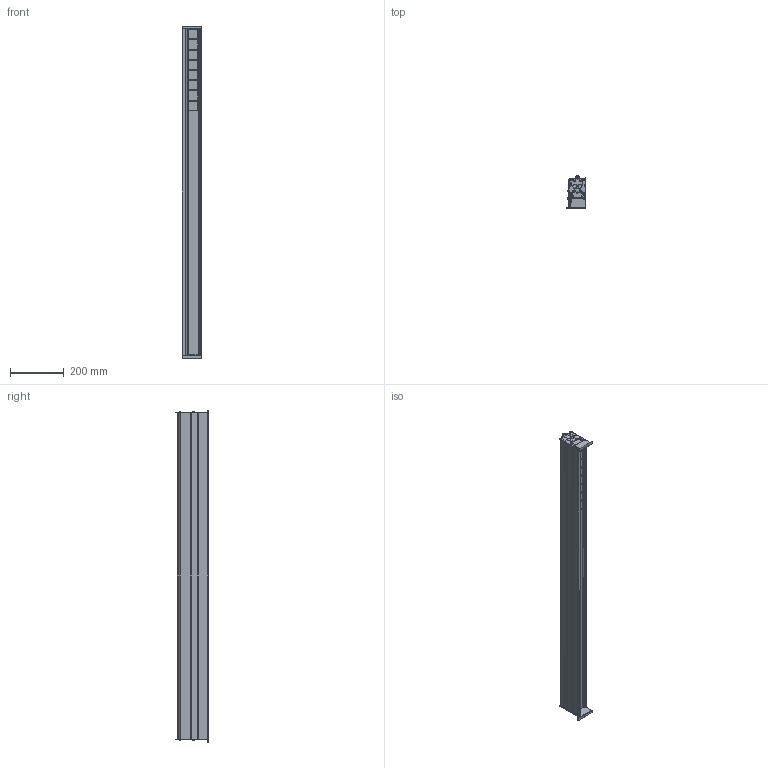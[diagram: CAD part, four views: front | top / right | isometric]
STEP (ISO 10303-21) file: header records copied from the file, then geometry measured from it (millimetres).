
FILE_DESCRIPTION (( 'STEP AP214' ), '1' );
FILE_NAME ('60PTLP-RBT-RML.STEP', '2023-02-14T21:15:46', ( '' ), ( '' ), 'SwSTEP 2.0', 'SolidWorks 2021', '' );
FILE_SCHEMA (( 'AUTOMOTIVE_DESIGN' ));
Length unit declared in the file: inch
Products named in the file (23): 710-10422-303-SA_710-10422-303-4''; 310-10020-101_310-10020-101; 710-10430-400_710-10430-400-4''; 710-10424-300_710-10424-300-4''; 720-10208-400-XX; 710-10414-300_IC90-L; 310-10040-101_310-10040-101; ProTools Perimeter bezel end cap B; 60PTLP-RBT-RML; 730-20959-101; 730-20904-100; ProTools Linear CCEA bezel end cap C; ProTools Linear Perimeter GT_RML 4''; 410-20037; 330-10009-400; ProTools Linear Perimeter Housing Assemblies_Perimeter Bezel; 310-10159-101_92005A218; Mirror410-20037; 730-10066; 610-20805-930-74.6MM; 730-20905-100; 310-10029-101_92005A112
Assembly tree (57 placements, depth 4):
  60PTLP-RBT-RML
    ProTools Linear Perimeter Housing Assemblies_Perimeter Bezel
      710-10414-300_IC90-L
      730-20904-100
        ProTools Linear CCEA bezel end cap C
        ProTools Perimeter bezel end cap B
      730-20905-100
        ProTools Linear CCEA bezel end cap C
        ProTools Perimeter bezel end cap B
      310-10040-101_310-10040-101  x6
    ProTools Linear Perimeter GT_RML 4''
      710-10422-303-SA_710-10422-303-4''
      710-10424-300_710-10424-300-4''
      310-10029-101_92005A112  x5
      710-10430-400_710-10430-400-4''
      310-10159-101_92005A218
      330-10009-400
      310-10020-101_310-10020-101  x8
      730-20959-101  x2
      730-10066  x2
      410-20037
        410-20037
        Mirror410-20037
      610-20805-930-74.6MM  x16
      720-10208-400-XX
Bounding box: 74 x 120.95 x 1240.79 mm (x, y, z)
Volume: 1733778.6 mm3; surface area: 1805394.8 mm2
Topology: 52 solids, 52 shells, 5023 faces, 13373 edges, 8829 vertices
Faces by surface type: plane 3133, cylinder 1431, bspline 178, cone 159, torus 94, sphere 28
Entity records: 66366 total; most frequent: CARTESIAN_POINT 17257, ORIENTED_EDGE 10198, DIRECTION 9270, EDGE_CURVE 5099, VECTOR 3594, LINE 3594, VERTEX_POINT 3366, AXIS2_PLACEMENT_3D 2838
